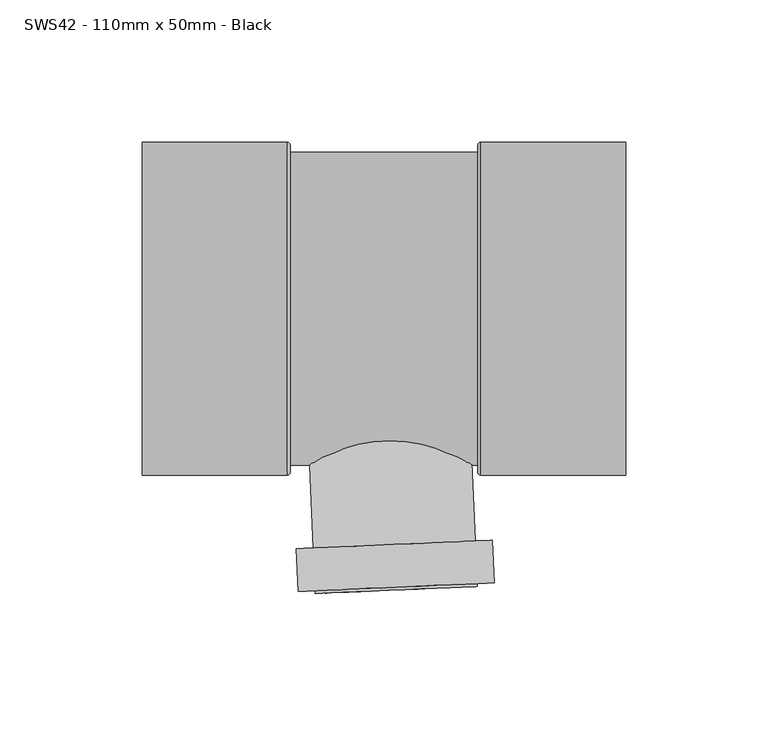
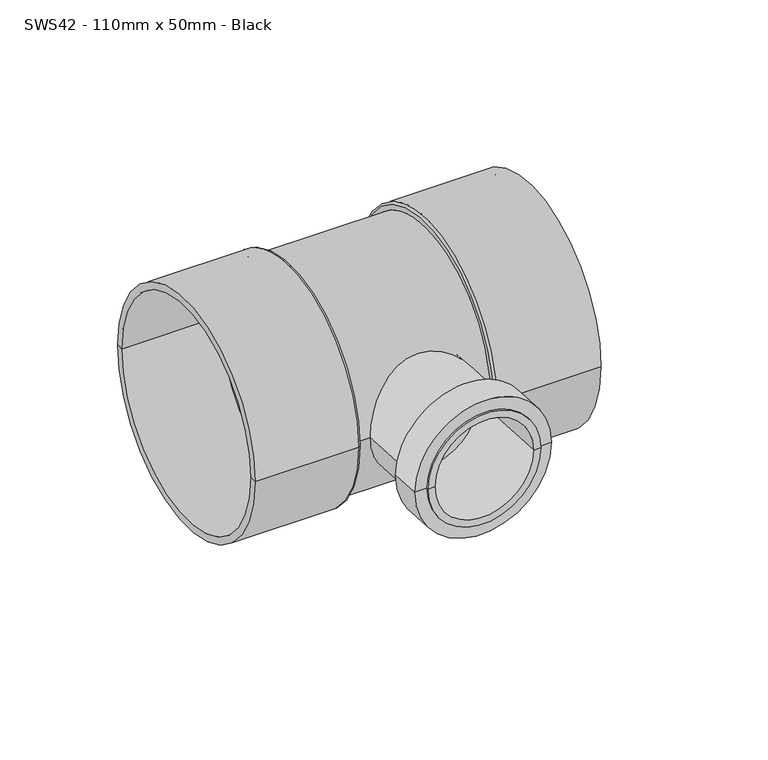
"""IFC4 building model written with IfcOpenShell, lengths in millimetres: pipe fitting geometry, MarleyPlumbingAndDrainage_PipeFitting_BossPipes_90Deg : SWS42 - 110mm x 50mm - Black."""

from ifc_helpers import new_model, si_unit, point, frame, origin, place, context, project, spatial, polyline, circle_curve, ellipse_curve, trimmed, source, transform, mapped, element, save
from ifc_brep_helpers import plane_surface, cylinder_surface, revolved_surface, advanced_brep


def sws42_110mm_x_50mm_black_5e80c7fd(model_context):
    return source(origin(), model_context, "Body", "AdvancedBrep", [
        advanced_brep(
        [(13.6474925, 1.2431525, 0.0), (-43.2982561, -1.2431525, 0.0), (-14.8253818, 0.0, 0.0), (17.2679016, -81.6778499, 0.0), (-39.677847, -84.1641549, 0.0), (23.262191, -81.4161335, 0.0), (-45.6721363, -84.4258713, 0.0), (23.9164818, -96.4018569, 0.0), (-45.0178455, -99.4115946, 0.0), (17.9221925, -96.6635732, 0.0), (-39.0235562, -99.1498783, 0.0), (17.9658118, -97.6626214, 0.0), (-38.9799368, -100.1489265, 0.0), (14.4691431, -97.8152893, 0.0), (-35.483268, -99.9962586, 0.0), (12.54989, -53.8571675, 0.0), (-37.4025211, -56.0381369, 0.0), (-12.4263155, -54.9476522, 0.0)],
        [
            (0, 1, circle_curve(frame((-14.8253818, 0.0, 0.0), z_axis=(-0.04361938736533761, 0.9990482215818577, 0.0), x_axis=(-0.9990482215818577, -0.04361938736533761, 0.0)), 28.5)),
            (1, 2),
            (2, 0),
            (1, 0, circle_curve(frame((-14.8253818, 0.0, 0.0), z_axis=(-0.04361938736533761, 0.9990482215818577, 0.0), x_axis=(-0.9990482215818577, -0.04361938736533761, 0.0)), 28.5)),
            (3, 4, circle_curve(frame((-11.2049727, -82.9210024, 0.0), z_axis=(-0.04361938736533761, 0.9990482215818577, 0.0), x_axis=(-0.9990482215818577, -0.04361938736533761, 0.0)), 28.5)),
            (4, 1),
            (0, 3),
            (4, 3, circle_curve(frame((-11.2049727, -82.9210024, 0.0), z_axis=(-0.04361938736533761, 0.9990482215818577, 0.0), x_axis=(-0.9990482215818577, -0.04361938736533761, 0.0)), 28.5)),
            (5, 6, circle_curve(frame((-11.2049727, -82.9210024, 0.0), z_axis=(-0.04361938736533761, 0.9990482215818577, 0.0), x_axis=(-0.9990482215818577, -0.04361938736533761, 0.0)), 34.5)),
            (6, 4),
            (3, 5),
            (6, 5, circle_curve(frame((-11.2049727, -82.9210024, 0.0), z_axis=(-0.04361938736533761, 0.9990482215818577, 0.0), x_axis=(-0.9990482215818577, -0.04361938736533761, 0.0)), 34.5)),
            (7, 8, circle_curve(frame((-10.5506819, -97.9067257, 0.0), z_axis=(-0.04361938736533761, 0.9990482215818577, 0.0), x_axis=(-0.9990482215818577, -0.04361938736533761, 0.0)), 34.5)),
            (8, 6),
            (5, 7),
            (8, 7, circle_curve(frame((-10.5506819, -97.9067257, 0.0), z_axis=(-0.04361938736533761, 0.9990482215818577, 0.0), x_axis=(-0.9990482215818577, -0.04361938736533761, 0.0)), 34.5)),
            (9, 10, circle_curve(frame((-10.5506819, -97.9067257, 0.0), z_axis=(-0.04361938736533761, 0.9990482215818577, 0.0), x_axis=(-0.9990482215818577, -0.04361938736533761, 0.0)), 28.5)),
            (10, 8),
            (7, 9),
            (10, 9, circle_curve(frame((-10.5506819, -97.9067257, 0.0), z_axis=(-0.04361938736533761, 0.9990482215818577, 0.0), x_axis=(-0.9990482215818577, -0.04361938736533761, 0.0)), 28.5)),
            (11, 12, circle_curve(frame((-10.5070625, -98.9057739, 0.0), z_axis=(-0.04361938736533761, 0.9990482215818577, 0.0), x_axis=(-0.9990482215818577, -0.04361938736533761, 0.0)), 28.5)),
            (12, 10),
            (9, 11),
            (12, 11, circle_curve(frame((-10.5070625, -98.9057739, 0.0), z_axis=(-0.04361938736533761, 0.9990482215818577, 0.0), x_axis=(-0.9990482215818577, -0.04361938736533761, 0.0)), 28.5)),
            (13, 14, circle_curve(frame((-10.5070625, -98.9057739, 0.0), z_axis=(-0.04361938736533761, 0.9990482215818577, 0.0), x_axis=(-0.9990482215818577, -0.04361938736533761, 0.0)), 25.0)),
            (14, 12),
            (11, 13),
            (14, 13, circle_curve(frame((-10.5070625, -98.9057739, 0.0), z_axis=(-0.04361938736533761, 0.9990482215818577, 0.0), x_axis=(-0.9990482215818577, -0.04361938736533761, 0.0)), 25.0)),
            (15, 16, circle_curve(frame((-12.4263155, -54.9476522, 0.0), z_axis=(-0.04361938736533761, 0.9990482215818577, 0.0), x_axis=(-0.9990482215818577, -0.04361938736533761, 0.0)), 25.0)),
            (16, 14),
            (13, 15),
            (16, 15, circle_curve(frame((-12.4263155, -54.9476522, 0.0), z_axis=(-0.04361938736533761, 0.9990482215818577, 0.0), x_axis=(-0.9990482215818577, -0.04361938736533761, 0.0)), 25.0)),
            (17, 16),
            (15, 17),
        ],
        [
            plane_surface(frame((-14.8253818, 0.0, 0.0), z_axis=(-0.04361938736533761, 0.9990482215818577, 0.0), x_axis=(-0.9990482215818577, -0.04361938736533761, 0.0))),
            cylinder_surface(frame((-14.8303465, 0.1137088, 0.0), z_axis=(0.04361938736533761, -0.9990482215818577, 0.0), x_axis=(-0.9990482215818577, -0.04361938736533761, 0.0)), 28.5),
            plane_surface(frame((-11.2049727, -82.9210024, 0.0), z_axis=(-0.04361938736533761, 0.9990482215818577, 0.0), x_axis=(-0.9990482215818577, -0.04361938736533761, 0.0))),
            cylinder_surface(frame((-14.8303465, 0.1137088, 0.0), z_axis=(0.04361938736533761, -0.9990482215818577, 0.0), x_axis=(-0.9990482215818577, -0.04361938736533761, 0.0)), 34.5),
            plane_surface(frame((-10.5506819, -97.9067257, 0.0), z_axis=(0.04361938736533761, -0.9990482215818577, 0.0), x_axis=(-0.9990482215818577, -0.04361938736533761, 0.0))),
            plane_surface(frame((-10.5070625, -98.9057739, 0.0), z_axis=(0.04361938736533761, -0.9990482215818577, 0.0), x_axis=(-0.9990482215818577, -0.04361938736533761, 0.0))),
            revolved_surface(polyline([(-35.48326805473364, -99.99625867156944, 0.0), (-37.402521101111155, -56.03813686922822, 0.0)]), (-14.8303465, 0.1137088, 0.0), (0.04361938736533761, -0.9990482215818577, 0.0)),
            plane_surface(frame((-12.4263155, -54.9476522, 0.0), z_axis=(0.04361938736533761, -0.9990482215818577, 0.0), x_axis=(-0.9990482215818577, -0.04361938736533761, 0.0))),
        ],
        [
            (0, [[1, 2, 3]]),
            (0, [[4, -3, -2]]),
            (1, [[5, 6, -1, 7]]),
            (1, [[8, -7, -4, -6]]),
            (2, [[9, 10, -5, 11]]),
            (2, [[12, -11, -8, -10]]),
            (3, [[13, 14, -9, 15]]),
            (3, [[16, -15, -12, -14]]),
            (4, [[17, 18, -13, 19]]),
            (4, [[20, -19, -16, -18]]),
            (1, [[21, 22, -17, 23]]),
            (1, [[24, -23, -20, -22]]),
            (5, [[25, 26, -21, 27]]),
            (5, [[28, -27, -24, -26]]),
            (6, [[29, 30, -25, 31]]),
            (6, [[32, -31, -28, -30]]),
            (7, [[33, -29, 34]]),
            (7, [[-34, -32, -33]]),
        ],
    ),
        advanced_brep(
        [(-99.8253818, -55.0, 0.0), (-99.8253818, 55.0, 0.0), (-99.8253818, 58.5, 0.0), (-99.8253818, -58.5, 0.0), (-51.3253818, -55.0, 0.0), (-51.3253818, 55.0, 0.0), (-51.3253818, 0.0, 0.0), (21.6746182, -55.0, 0.0), (21.6746182, 55.0, 0.0), (21.6746182, 0.0, 0.0), (70.1746182, -55.0, 0.0), (70.1746182, 55.0, 0.0), (70.1746182, -58.5, 0.0), (70.1746182, 58.5, 0.0), (19.1746182, -58.5, 0.0), (19.1746182, 58.5, 0.0), (18.1746182, -57.5, 0.0), (18.1746182, 57.5, 0.0), (18.1746182, -55.0, 0.0), (18.1746182, 55.0, 0.0), (-47.8253818, -55.0, 0.0), (-47.8253818, 55.0, 0.0), (-47.8253818, -57.5, 0.0), (-47.8253818, 57.5, 0.0), (-48.8253818, -58.5, 0.0), (-48.8253818, 58.5, 0.0)],
        [
            (0, 1, circle_curve(frame((-99.8253818, 0.0, 0.0), z_axis=(1.0, 0.0, 0.0), x_axis=(0.0, 1.0, 0.0)), 55.0)),
            (1, 2),
            (2, 3, circle_curve(frame((-99.8253818, 0.0, 0.0), z_axis=(-1.0, 0.0, 0.0), x_axis=(0.0, 1.0, 0.0)), 58.5)),
            (3, 0),
            (1, 0, circle_curve(frame((-99.8253818, 0.0, 0.0), z_axis=(1.0, 0.0, 0.0), x_axis=(0.0, 1.0, 0.0)), 55.0)),
            (3, 2, circle_curve(frame((-99.8253818, 0.0, 0.0), z_axis=(-1.0, 0.0, 0.0), x_axis=(0.0, 1.0, 0.0)), 58.5)),
            (4, 5, circle_curve(frame((-51.3253818, 0.0, 0.0), z_axis=(1.0, 0.0, 0.0), x_axis=(0.0, 1.0, 0.0)), 55.0)),
            (5, 1),
            (0, 4),
            (5, 4, circle_curve(frame((-51.3253818, 0.0, 0.0), z_axis=(1.0, 0.0, 0.0), x_axis=(0.0, 1.0, 0.0)), 55.0)),
            (6, 5),
            (4, 6),
            (7, 8, circle_curve(frame((21.6746182, 0.0, 0.0), z_axis=(1.0, 0.0, 0.0), x_axis=(0.0, 1.0, 0.0)), 55.0)),
            (8, 9),
            (9, 7),
            (8, 7, circle_curve(frame((21.6746182, 0.0, 0.0), z_axis=(1.0, 0.0, 0.0), x_axis=(0.0, 1.0, 0.0)), 55.0)),
            (10, 11, circle_curve(frame((70.1746182, 0.0, 0.0), z_axis=(1.0, 0.0, 0.0), x_axis=(0.0, 1.0, 0.0)), 55.0)),
            (11, 8),
            (7, 10),
            (11, 10, circle_curve(frame((70.1746182, 0.0, 0.0), z_axis=(1.0, 0.0, 0.0), x_axis=(0.0, 1.0, 0.0)), 55.0)),
            (12, 13, circle_curve(frame((70.1746182, 0.0, 0.0), z_axis=(1.0, 0.0, 0.0), x_axis=(0.0, 1.0, 0.0)), 58.5)),
            (13, 11),
            (10, 12),
            (13, 12, circle_curve(frame((70.1746182, 0.0, 0.0), z_axis=(1.0, 0.0, 0.0), x_axis=(0.0, 1.0, 0.0)), 58.5)),
            (14, 15, circle_curve(frame((19.1746182, 0.0, 0.0), z_axis=(1.0, 0.0, 0.0), x_axis=(0.0, 1.0, 0.0)), 58.5)),
            (15, 13),
            (12, 14),
            (15, 14, circle_curve(frame((19.1746182, 0.0, 0.0), z_axis=(1.0, 0.0, 0.0), x_axis=(0.0, 1.0, 0.0)), 58.5)),
            (16, 17, circle_curve(frame((18.1746182, 0.0, 0.0), z_axis=(1.0, 0.0, 0.0), x_axis=(0.0, 1.0, 0.0)), 57.5)),
            (17, 15, circle_curve(frame((19.1746182, 57.5, 0.0), z_axis=(0.0, 0.0, -1.0), x_axis=(1.0, 0.0, 0.0)), 1.0)),
            (14, 16, circle_curve(frame((19.1746182, -57.5, 0.0), z_axis=(0.0, 0.0, -1.0), x_axis=(1.0, 0.0, 0.0)), 1.0)),
            (17, 16, circle_curve(frame((18.1746182, 0.0, 0.0), z_axis=(1.0, 0.0, 0.0), x_axis=(0.0, 1.0, 0.0)), 57.5)),
            (18, 19, circle_curve(frame((18.1746182, 0.0, 0.0), z_axis=(1.0, 0.0, 0.0), x_axis=(0.0, 1.0, 0.0)), 55.0)),
            (19, 17),
            (16, 18),
            (19, 18, circle_curve(frame((18.1746182, 0.0, 0.0), z_axis=(1.0, 0.0, 0.0), x_axis=(0.0, 1.0, 0.0)), 55.0)),
            (20, 21, circle_curve(frame((-47.8253818, 0.0, 0.0), z_axis=(1.0, 0.0, 0.0), x_axis=(0.0, 1.0, 0.0)), 55.0)),
            (21, 19),
            (18, 20),
            (21, 20, circle_curve(frame((-47.8253818, 0.0, 0.0), z_axis=(1.0, 0.0, 0.0), x_axis=(0.0, 1.0, 0.0)), 55.0)),
            (22, 23, circle_curve(frame((-47.8253818, 0.0, 0.0), z_axis=(1.0, 0.0, 0.0), x_axis=(0.0, 1.0, 0.0)), 57.5)),
            (23, 21),
            (20, 22),
            (23, 22, circle_curve(frame((-47.8253818, 0.0, 0.0), z_axis=(1.0, 0.0, 0.0), x_axis=(0.0, 1.0, 0.0)), 57.5)),
            (24, 25, circle_curve(frame((-48.8253818, 0.0, 0.0), z_axis=(1.0, 0.0, 0.0), x_axis=(0.0, 1.0, 0.0)), 58.5)),
            (25, 23, circle_curve(frame((-48.8253818, 57.5, 0.0), z_axis=(0.0, 0.0, -1.0), x_axis=(1.0, 0.0, 0.0)), 1.0)),
            (22, 24, circle_curve(frame((-48.8253818, -57.5, 0.0), z_axis=(0.0, 0.0, -1.0), x_axis=(1.0, 0.0, 0.0)), 1.0)),
            (25, 24, circle_curve(frame((-48.8253818, 0.0, 0.0), z_axis=(1.0, 0.0, 0.0), x_axis=(0.0, 1.0, 0.0)), 58.5)),
            (2, 25),
            (24, 3),
        ],
        [
            plane_surface(frame((-99.8253818, 0.0, 0.0), z_axis=(-1.0, 0.0, 0.0), x_axis=(0.0, 1.0, 0.0))),
            revolved_surface(polyline([(-99.82538179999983, 55.0, 0.0), (-51.32538179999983, 55.0, 0.0)]), (2000.0, 0.0, 0.0), (-1.0, 0.0, 0.0)),
            plane_surface(frame((-51.3253818, 0.0, 0.0), z_axis=(-1.0, 0.0, 0.0), x_axis=(0.0, 1.0, 0.0))),
            plane_surface(frame((21.6746182, 0.0, 0.0), z_axis=(1.0, 0.0, 0.0), x_axis=(0.0, 1.0, 0.0))),
            revolved_surface(polyline([(21.67461819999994, 55.0, 0.0), (70.17461819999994, 55.0, 0.0)]), (2000.0, 0.0, 0.0), (-1.0, 0.0, 0.0)),
            plane_surface(frame((70.1746182, 0.0, 0.0), z_axis=(1.0, 0.0, 0.0), x_axis=(0.0, 1.0, 0.0))),
            cylinder_surface(frame((2000.0, 0.0, 0.0), z_axis=(-1.0, 0.0, 0.0), x_axis=(0.0, 1.0, 0.0)), 58.5),
            revolved_surface(trimmed(ellipse_curve(frame((19.1746182, 57.5, 0.0), z_axis=(0.0, 0.0, 1.0), x_axis=(1.0, 0.0, 0.0)), 1.0, 1.0), [point((19.1746182, 58.5, 0.0))], [point((18.1746182, 57.5, 0.0))], True, "CARTESIAN"), (2000.0, 0.0, 0.0), (-1.0, 0.0, 0.0)),
            plane_surface(frame((18.1746182, 0.0, 0.0), z_axis=(-1.0, 0.0, 0.0), x_axis=(0.0, 1.0, 0.0))),
            cylinder_surface(frame((2000.0, 0.0, 0.0), z_axis=(-1.0, 0.0, 0.0), x_axis=(0.0, 1.0, 0.0)), 55.0),
            plane_surface(frame((-47.8253818, 0.0, 0.0), z_axis=(1.0, 0.0, 0.0), x_axis=(0.0, 1.0, 0.0))),
            revolved_surface(trimmed(ellipse_curve(frame((-48.8253818, 57.5, 0.0), z_axis=(0.0, 0.0, 1.0), x_axis=(1.0, 0.0, 0.0)), 1.0, 1.0), [point((-47.8253818, 57.5, 0.0))], [point((-48.8253818, 58.5, 0.0))], True, "CARTESIAN"), (2000.0, 0.0, 0.0), (-1.0, 0.0, 0.0)),
        ],
        [
            (0, [[1, 2, 3, 4]]),
            (0, [[5, -4, 6, -2]]),
            (1, [[7, 8, -1, 9]]),
            (1, [[10, -9, -5, -8]]),
            (2, [[11, -7, 12]]),
            (2, [[-12, -10, -11]]),
            (3, [[13, 14, 15]]),
            (3, [[16, -15, -14]]),
            (4, [[17, 18, -13, 19]]),
            (4, [[20, -19, -16, -18]]),
            (5, [[21, 22, -17, 23]]),
            (5, [[24, -23, -20, -22]]),
            (6, [[25, 26, -21, 27]]),
            (6, [[28, -27, -24, -26]]),
            (7, [[29, 30, -25, 31]]),
            (7, [[32, -31, -28, -30]]),
            (8, [[33, 34, -29, 35]]),
            (8, [[36, -35, -32, -34]]),
            (9, [[37, 38, -33, 39]]),
            (9, [[40, -39, -36, -38]]),
            (10, [[41, 42, -37, 43]]),
            (10, [[44, -43, -40, -42]]),
            (11, [[45, 46, -41, 47]]),
            (11, [[48, -47, -44, -46]]),
            (6, [[-3, 49, -45, 50]]),
            (6, [[-6, -50, -48, -49]]),
        ],
    ),
    ])


if __name__ == "__main__":
    model = new_model("IFC4")
    model_context = context("Model", 3, world=origin())
    ifc_project = project(units=[si_unit("LENGTHUNIT", "METRE", prefix="MILLI")], contexts=[model_context])
    site = spatial("IfcSite", under=ifc_project)
    building = spatial("IfcBuilding", under=site)
    placement = place(None, origin())
    sws42_110mm_x_50mm_black_shape = sws42_110mm_x_50mm_black_5e80c7fd(model_context)
    element("IfcPipeFitting", 1, ObjectType="MarleyPlumbingAndDrainage_PipeFitting_BossPipes_90Deg : SWS42 - 110mm x 50mm - Black", at=placement, inside=building, context=model_context, shape_type="MappedRepresentation", body=[
        mapped(sws42_110mm_x_50mm_black_shape, transform((0.0, 0.0, 0.0), x_axis=(1.0, 0.0, 0.0), y_axis=(0.0, 1.0, 0.0), z_axis=(0.0, 0.0, 1.0))),
    ])
    save(model, "model.ifc")
